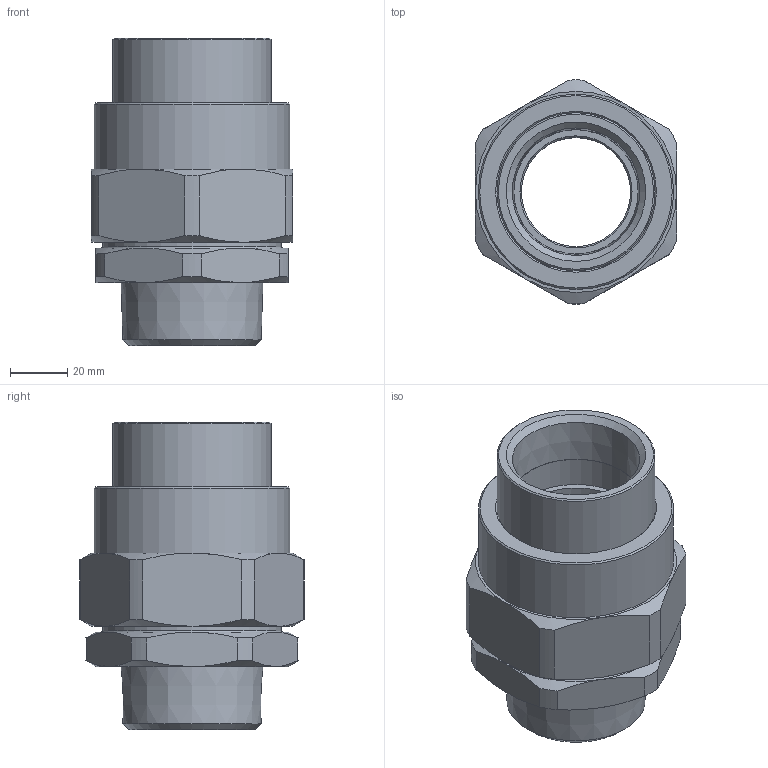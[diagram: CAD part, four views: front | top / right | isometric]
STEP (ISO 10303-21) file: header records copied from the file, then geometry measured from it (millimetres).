
FILE_DESCRIPTION((''),'2;1');
FILE_NAME('C:\_Action\Готовые чертежи\2021\_05_21\тз66030\TCBHA (параметрика).stp','2021-05-21T11:09:54',('Yu.F.Turkin'),(''),'Autodesk Inventor 2012','Autodesk Inventor 2012','');
FILE_SCHEMA(('AUTOMOTIVE_DESIGN { 1 0 10303 214 1 1 1 1 }'));
Length unit declared in the file: millimetre
Products named in the file (5): TCBHA (параметрика); Корпус TCBHA5NB; Гайка TCBHA5_B; Штуцер F TCBHA5NB; Уплотнение TCBHA5_
Assembly tree (4 placements, depth 2):
  TCBHA (параметрика)
    Корпус TCBHA5NB
    Гайка TCBHA5_B
    Штуцер F TCBHA5NB
    Уплотнение TCBHA5_
Bounding box: 70 x 77.98 x 107 mm (x, y, z)
Volume: 202018.5 mm3; surface area: 65853.4 mm2
Topology: 4 solids, 4 shells, 105 faces, 237 edges, 146 vertices
Faces by surface type: plane 38, cone 37, cylinder 29, torus 1
Full cylindrical faces by diameter (mm): 38 x1, 39 x1, 43.256 x1, 44 x1, 55 x2, 62 x1, 62.1 x1, 62.376 x1, 64 x1, 68 x1
Entity records: 2967 total; most frequent: CARTESIAN_POINT 552, DIRECTION 486, ORIENTED_EDGE 408, AXIS2_PLACEMENT_3D 216, EDGE_CURVE 204, EDGE_LOOP 144, VERTEX_POINT 138, STYLED_ITEM 109
